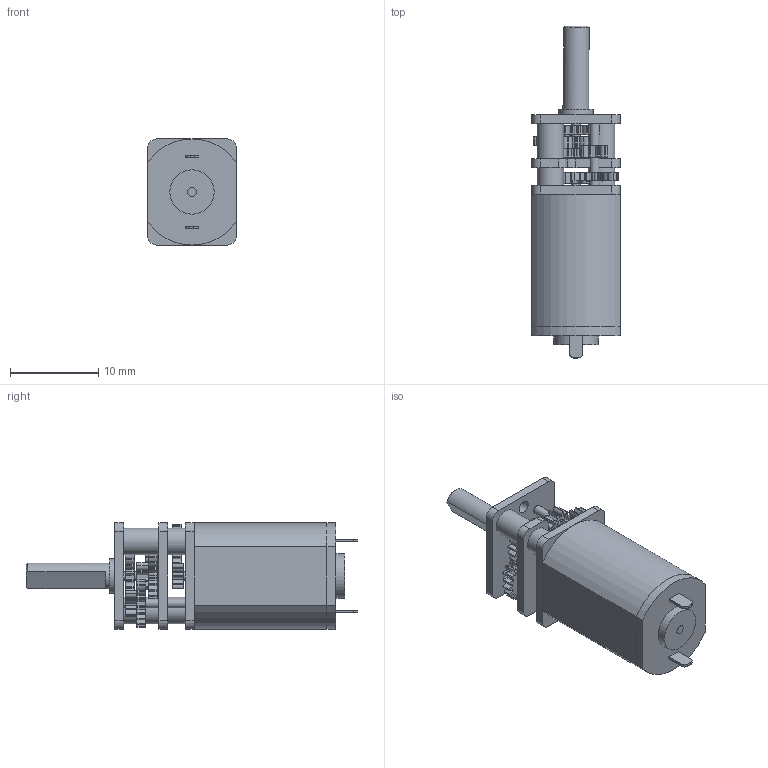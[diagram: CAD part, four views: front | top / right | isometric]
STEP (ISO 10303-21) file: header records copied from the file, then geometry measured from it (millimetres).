
FILE_DESCRIPTION(/* description */ (''),/* implementation_level */ '2;1');
FILE_NAME(/* name */ 'C:\Users\admin\Desktop\inventor\motore dc geared 12v\step\motore_dc_12v.stp',/* time_stamp */ '2021-10-02T07:42:56+02:00',/* author */ ('admin'),/* organization */ (''),/* preprocessor_version */ 'ST-DEVELOPER v18.1',/* originating_system */ 'Autodesk Inventor 2022',/* authorisation */ '');
FILE_SCHEMA (('AUTOMOTIVE_DESIGN { 1 0 10303 214 3 1 1 }'));
Length unit declared in the file: millimetre
Products named in the file (16): motore_dc_12v; Component1; Component2; Component3; Component8; Component9; Component10; Component5; Component7; Component6; Component4; Component12; Component11; Component15; Component16; Part62
Assembly tree (25 placements, depth 2):
  motore_dc_12v
    Component1
    Component2
    Component3
    Component4  x2
    Component5  x2
    Component6  x2
    Component7  x2
    Component8
    Component9
    Component10
    Component11  x4
    Component12  x4
    Component15
    Component16
    Part62
Bounding box: 10 x 37.52 x 12 mm (x, y, z)
Volume: 1726.2 mm3; surface area: 3790.6 mm2
Topology: 26 solids, 26 shells, 709 faces, 1925 edges, 1280 vertices
Faces by surface type: cylinder 564, plane 138, cone 7
Full cylindrical faces by diameter (mm): 0.75 x7, 1 x21, 1.421 x2, 1.5 x13, 1.538 x2, 2.66 x2, 2.94 x1, 3 x7, 3.9 x1, 5 x1, 8 x1
Entity records: 10187 total; most frequent: DIRECTION 1831, CARTESIAN_POINT 1609, ORIENTED_EDGE 1522, EDGE_CURVE 761, AXIS2_PLACEMENT_3D 733, VERTEX_POINT 505, CIRCLE 394, LINE 365
